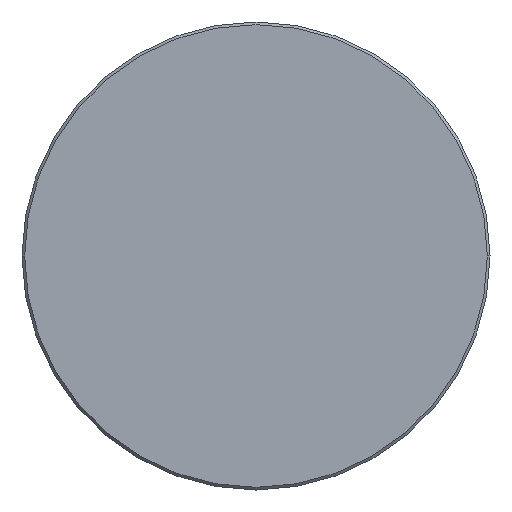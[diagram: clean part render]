
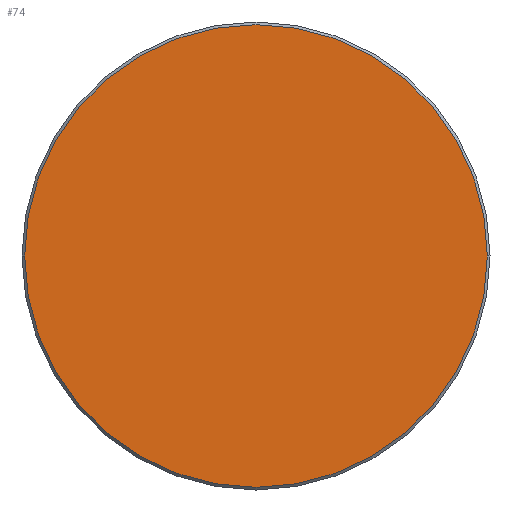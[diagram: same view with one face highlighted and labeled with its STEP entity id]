
A CAD part, left-side view. The second image highlights one B-rep face of the part: STEP entity #74.
In plain terms, the highlighted planar face has unit normal (-1, 0, 0).
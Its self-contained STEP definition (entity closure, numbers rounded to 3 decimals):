
#26 = CIRCLE ( 'NONE', #32, 17.3 ) ;
#32 = AXIS2_PLACEMENT_3D ( 'NONE', #392, #391, #390 ) ;
#74 = ADVANCED_FACE ( 'NONE', ( #1289 ), #1292, .T. ) ;
#107 = EDGE_CURVE ( 'NONE', #806, #805, #595, .T. ) ;
#174 = EDGE_CURVE ( 'NONE', #805, #806, #26, .T. ) ;
#287 = CARTESIAN_POINT ( 'NONE',  ( -77., 17.3, 0. ) ) ;
#289 = CARTESIAN_POINT ( 'NONE',  ( -77., -17.3, 0. ) ) ;
#390 = DIRECTION ( 'NONE',  ( 0., -1., 0. ) ) ;
#391 = DIRECTION ( 'NONE',  ( -1., 0., 0. ) ) ;
#392 = CARTESIAN_POINT ( 'NONE',  ( -77., 0., 0. ) ) ;
#584 = AXIS2_PLACEMENT_3D ( 'NONE', #1066, #1064, #1063 ) ;
#595 = CIRCLE ( 'NONE', #584, 17.3 ) ;
#672 = AXIS2_PLACEMENT_3D ( 'NONE', #1311, #1285, #1284 ) ;
#805 = VERTEX_POINT ( 'NONE', #287 ) ;
#806 = VERTEX_POINT ( 'NONE', #289 ) ;
#981 = ORIENTED_EDGE ( 'NONE', *, *, #174, .T. ) ;
#982 = ORIENTED_EDGE ( 'NONE', *, *, #107, .T. ) ;
#1063 = DIRECTION ( 'NONE',  ( 0., -1., 0. ) ) ;
#1064 = DIRECTION ( 'NONE',  ( -1., 0., 0. ) ) ;
#1066 = CARTESIAN_POINT ( 'NONE',  ( -77., 0., 0. ) ) ;
#1284 = DIRECTION ( 'NONE',  ( 0., -1., 0. ) ) ;
#1285 = DIRECTION ( 'NONE',  ( -1., 0., 0. ) ) ;
#1289 = FACE_OUTER_BOUND ( 'NONE', #1334, .T. ) ;
#1292 = PLANE ( 'NONE',  #672 ) ;
#1311 = CARTESIAN_POINT ( 'NONE',  ( -77., 0., 0. ) ) ;
#1334 = EDGE_LOOP ( 'NONE', ( #981, #982 ) ) ;
